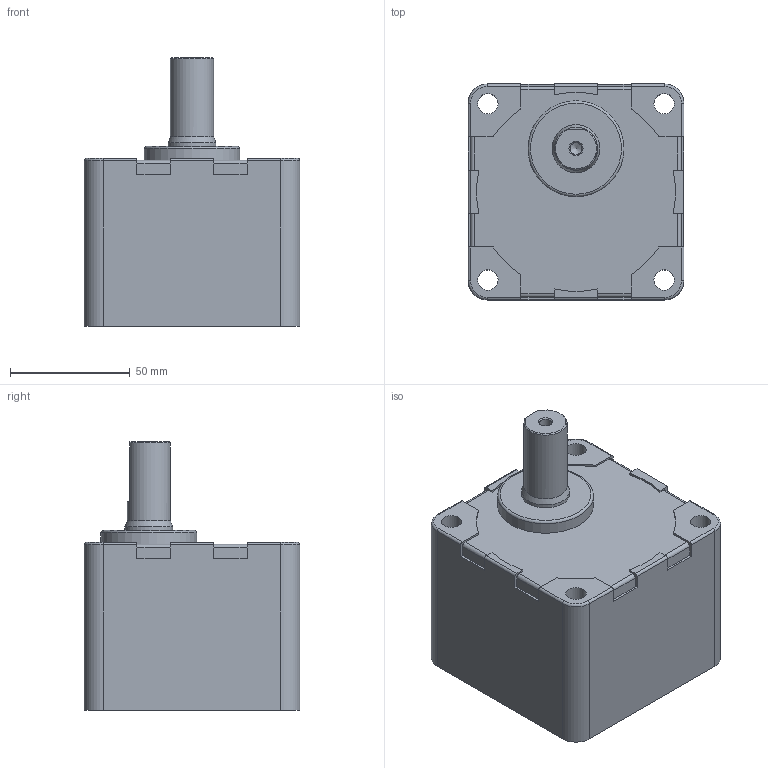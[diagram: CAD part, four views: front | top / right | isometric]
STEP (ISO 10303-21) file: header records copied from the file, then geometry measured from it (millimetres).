
FILE_DESCRIPTION(/* description */ (''),/* implementation_level */ '2;1');
FILE_NAME(/* name */ 'E:\도면작업\2016\0704) 미주향 SG 도면\3D GEAR HEAD\SG9DC50~200.stp',/* time_stamp */ '2016-07-22T14:04:32+09:00',/* author */ ('jy-jung'),/* organization */ (''),/* preprocessor_version */ 'ST-DEVELOPER v15.6',/* originating_system */ 'Autodesk Inventor 2015',/* authorisation */ '');
FILE_SCHEMA (('AUTOMOTIVE_DESIGN { 1 0 10303 214 3 1 1 }'));
Length unit declared in the file: millimetre
Products named in the file (1): SG9DC50~200
Bounding box: 90 x 90 x 112 mm (x, y, z)
Volume: 542487.7 mm3; surface area: 51539.4 mm2
Topology: 1 solids, 1 shells, 104 faces, 279 edges, 181 vertices
Faces by surface type: plane 52, cylinder 41, cone 6, torus 5
Full cylindrical faces by diameter (mm): 4.917 x1, 8.5 x4, 10.5 x1, 18 x1, 20 x1, 40 x1, 83 x1
Entity records: 3195 total; most frequent: DIRECTION 561, CARTESIAN_POINT 549, ORIENTED_EDGE 522, EDGE_CURVE 261, AXIS2_PLACEMENT_3D 197, VERTEX_POINT 179, LINE 167, VECTOR 167
